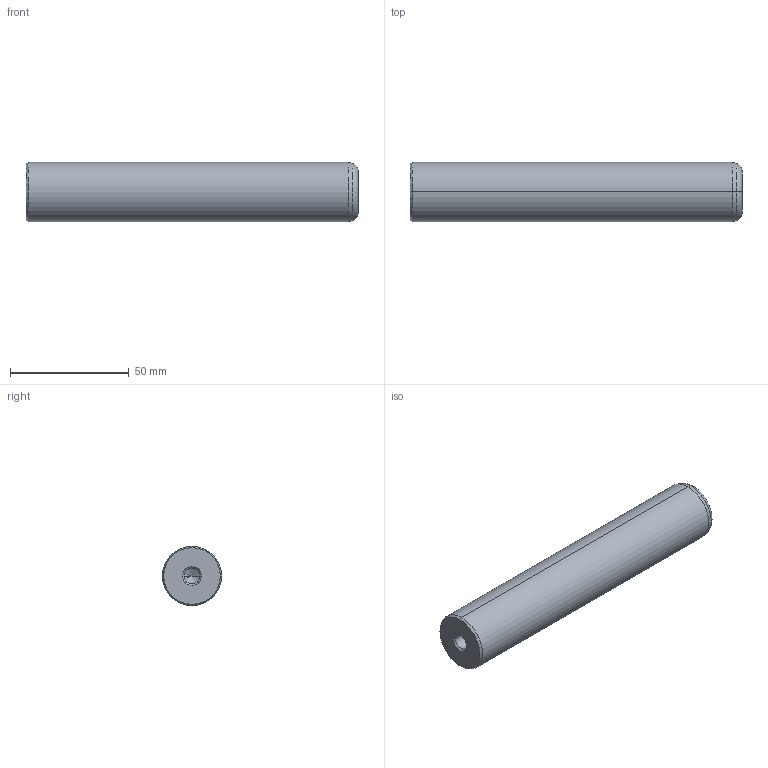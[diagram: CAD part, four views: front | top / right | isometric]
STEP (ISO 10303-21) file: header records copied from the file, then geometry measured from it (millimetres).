
FILE_DESCRIPTION(('CATIA V5 STEP Exchange'),'2;1');
FILE_NAME('C:\Users\Utente\Desktop\IO LAVORO\3D X SITO CF\X SITO\720\720-25x140.stp','2021-01-01T12:44:02+00:00',('none'),('none'),'CATIA Version 5 Release 20 GA (IN-10)','CATIA V5 STEP AP203','none');
FILE_SCHEMA(('CONFIG_CONTROL_DESIGN'));
Length unit declared in the file: millimetre
Products named in the file (1): 720-25x140
Bounding box: 140 x 25 x 25 mm (x, y, z)
Volume: 66745.7 mm3; surface area: 12806.2 mm2
Topology: 1 solids, 1 shells, 22 faces, 62 edges, 40 vertices
Faces by surface type: cone 12, cylinder 6, plane 2, torus 2
Entity records: 806 total; most frequent: CARTESIAN_POINT 229, ORIENTED_EDGE 116, DIRECTION 93, EDGE_CURVE 58, AXIS2_PLACEMENT_3D 54, VERTEX_POINT 40, CIRCLE 31, EDGE_LOOP 24
